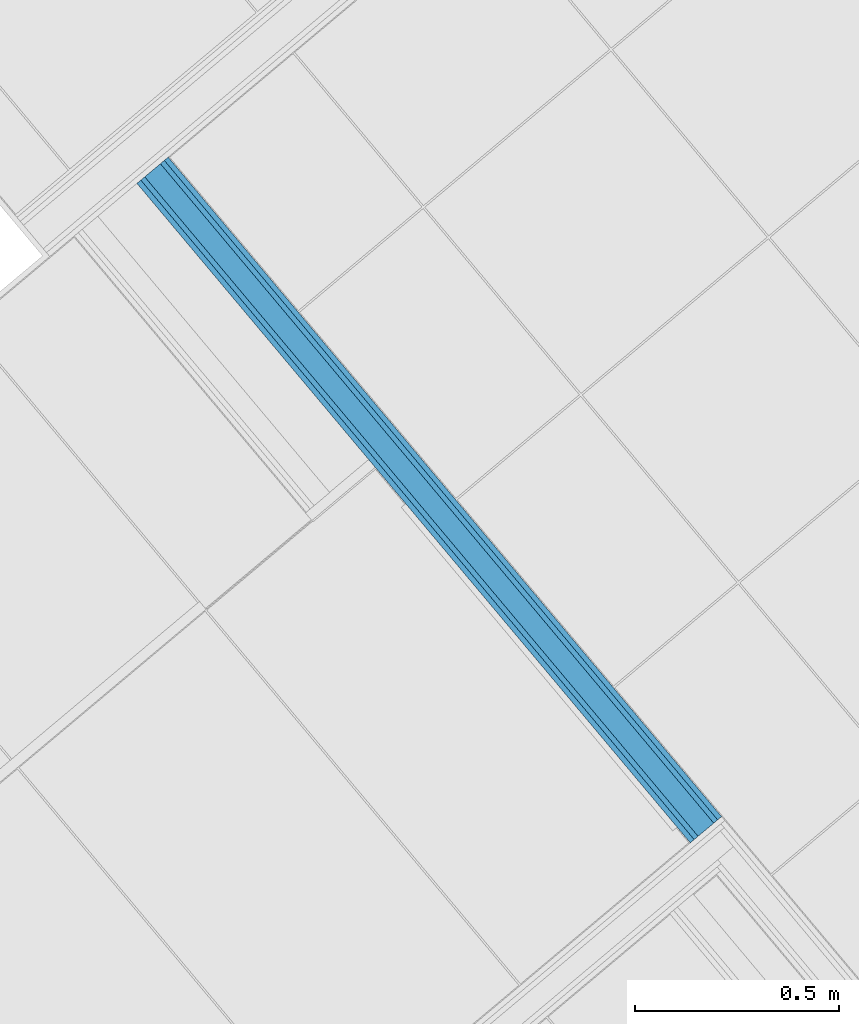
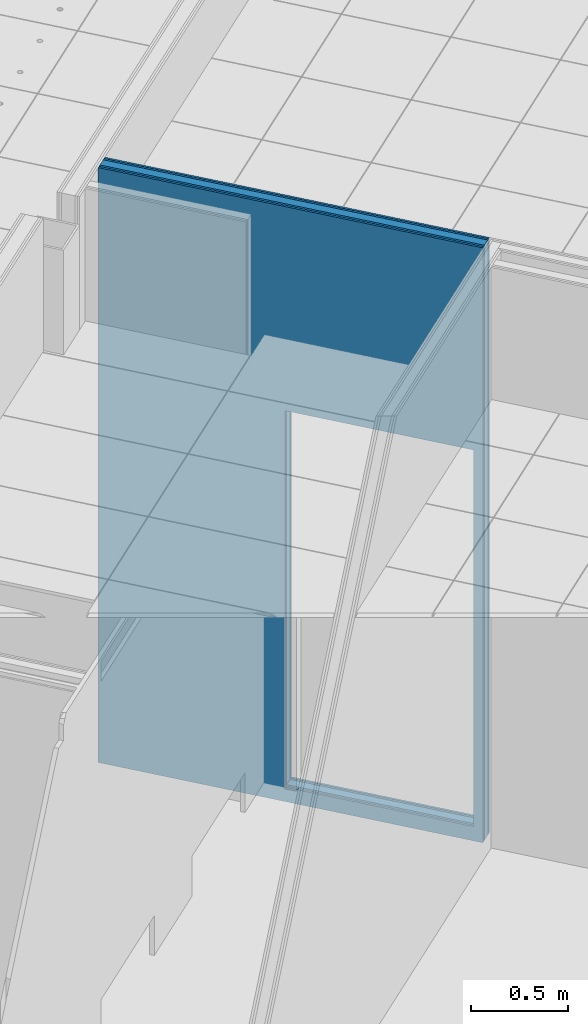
# One storey, part 22 of 338: 5 building element parts, 1 opening, 1 element without a shape of its own.
"""IFC2X3 building model written with IfcOpenShell, lengths in millimetres."""

import ifcopenshell
import ifcopenshell.guid

model = None  # the IFC model being written
_history = None  # IfcOwnerHistory: only IFC2X3 demands one
_inside = {}  # id of a spatial element -> (the spatial element, [elements in it])
_under = {}  # id of a project, library or spatial element -> (it, [spatial elements below it])
_declared = {}  # id of a project -> (the project, [libraries it declares])
_typed = {}  # id of a type object -> (the type object, [elements of that type])
_made_of = {}  # id of a material, layer set ... -> (it, [elements and type objects made of it])


def new_model(schema):
    """Start an empty IFC model of exactly this schema.

    Asked for "IFC4X3", IfcOpenShell would pick the latest addendum, in which some entities
    have other attributes; the version numbers below select the first issue.
    IFC2X3 requires an IfcOwnerHistory on every rooted entity: one is made here for all.
    """
    global model, _history
    if schema == "IFC4X3":
        model = ifcopenshell.file(schema_version=(4, 3, 0, 0))
    else:
        model = ifcopenshell.file(schema=schema)
    _inside.clear()
    _under.clear()
    _declared.clear()
    _typed.clear()
    _made_of.clear()
    _history = None
    if model.schema == "IFC2X3":
        org = make("IfcOrganization", Name="unknown")
        user = make(
            "IfcPersonAndOrganization",
            ThePerson=make("IfcPerson", FamilyName="unknown"),
            TheOrganization=org,
        )
        app = make(
            "IfcApplication",
            ApplicationDeveloper=org,
            Version="unknown",
            ApplicationFullName="unknown",
            ApplicationIdentifier="unknown",
        )
        _history = make(
            "IfcOwnerHistory",
            OwningUser=user,
            OwningApplication=app,
            ChangeAction="ADDED",
            CreationDate=0,
        )
    return model


def make(cls, **values):
    """One entity of the class cls with the attributes given. An attribute that is None is left unset."""
    return model.create_entity(
        cls, **{name: value for name, value in values.items() if value is not None}
    )


def entity(cls, *values):
    """Any entity or typed value of the class cls, its attributes in the order of the schema. None: left unset."""
    e = model.create_entity(cls)
    for i, value in enumerate(values):
        if value is not None:
            e[i] = value
    return e


def rooted(cls, **values):
    """An entity with a GlobalId (a new one), such as an element, a storey or a relation."""
    return make(cls, GlobalId=ifcopenshell.guid.new(), OwnerHistory=_history, **values)


def si_unit(unit_type, name, prefix=None):
    """IfcSIUnit, for example si_unit("LENGTHUNIT", "METRE", prefix="MILLI")."""
    return make("IfcSIUnit", UnitType=unit_type, Prefix=prefix, Name=name)


def converted_unit(unit_type, name, factor, base, dimensions=None, offset=None):
    """IfcConversionBasedUnit, such as the inch: factor (a typed value) times the base unit."""
    return make(
        "IfcConversionBasedUnit"
        if offset is None
        else "IfcConversionBasedUnitWithOffset",
        ConversionOffset=offset,
        Dimensions=None
        if dimensions is None
        else entity("IfcDimensionalExponents", *dimensions),
        UnitType=unit_type,
        Name=name,
        ConversionFactor=make(
            "IfcMeasureWithUnit", ValueComponent=factor, UnitComponent=base
        ),
    )


def derived_unit(unit_type, elements):
    """IfcDerivedUnit: a product of units, each with its exponent."""
    return make(
        "IfcDerivedUnit",
        Elements=[
            make("IfcDerivedUnitElement", Unit=unit, Exponent=power)
            for unit, power in elements
        ],
        UnitType=unit_type,
    )


def money_unit(currency):
    """IfcMonetaryUnit."""
    return make("IfcMonetaryUnit", Currency=currency)


def assignment(units):
    """IfcUnitAssignment: the units of a project."""
    return None if units is None else make("IfcUnitAssignment", Units=units)


def point(xyz):
    """IfcCartesianPoint."""
    return None if xyz is None else make("IfcCartesianPoint", Coordinates=xyz)


def direction(xyz):
    """IfcDirection."""
    return None if xyz is None else make("IfcDirection", DirectionRatios=xyz)


def frame(location, z_axis=None, x_axis=None):
    """IfcAxis2Placement3D, a coordinate frame: its origin and axes. An axis left out is left unset."""
    return make(
        "IfcAxis2Placement3D",
        Location=point(location),
        Axis=direction(z_axis),
        RefDirection=direction(x_axis),
    )


def origin_with_axes():
    """The frame at (0, 0, 0) with the z axis (0, 0, 1) and the x axis (1, 0, 0) written out."""
    return frame((0.0, 0.0, 0.0), z_axis=(0.0, 0.0, 1.0), x_axis=(1.0, 0.0, 0.0))


def place(relative_to, where):
    """IfcLocalPlacement: puts the frame where relative to a parent placement (None: the world)."""
    return make(
        "IfcLocalPlacement", PlacementRelTo=relative_to, RelativePlacement=where
    )


def context(
    kind, dimensions, precision=None, world=None, true_north=None, identifier=None
):
    """IfcGeometricRepresentationContext, for example the 3D "Model" context."""
    return make(
        "IfcGeometricRepresentationContext",
        ContextIdentifier=identifier,
        ContextType=kind,
        CoordinateSpaceDimension=dimensions,
        Precision=precision,
        WorldCoordinateSystem=world,
        TrueNorth=true_north,
    )


def subcontext(parent, identifier, kind, view, scale=None):
    """IfcGeometricRepresentationSubContext, for example "Body" below "Model"."""
    return make(
        "IfcGeometricRepresentationSubContext",
        ContextIdentifier=identifier,
        ContextType=kind,
        ParentContext=parent,
        TargetScale=scale,
        TargetView=view,
    )


def project(units=None, contexts=None):
    """IfcProject with its units and contexts."""
    return rooted(
        "IfcProject",
        Name="project",
        RepresentationContexts=contexts,
        UnitsInContext=assignment(units),
    )


def spatial(cls, under=None, at=None, **own):
    """A site, building, storey or space (cls), placed at a placement, below another one or the project."""
    s = rooted(cls, ObjectPlacement=at, **own)
    if under is not None:
        _under.setdefault(under.id(), (under, []))[1].append(s)
    return s


def faces_of(points, faces, orient=None, outer=None):
    """IfcFace entities. A face is a list of loops; a loop is a list of indices into points, from 0.

    orient and outer hold one flag for each loop. By default every Orientation is true, the
    first loop of a face is its IfcFaceOuterBound and the others are IfcFaceBound.
    """
    made = []
    for i, loops in enumerate(faces):
        bounds = []
        for j, loop in enumerate(loops):
            is_outer = j == 0 if outer is None else outer[i][j]
            bounds.append(
                make(
                    "IfcFaceOuterBound" if is_outer else "IfcFaceBound",
                    Bound=make("IfcPolyLoop", Polygon=[points[k] for k in loop]),
                    Orientation=True if orient is None else orient[i][j],
                )
            )
        made.append(make("IfcFace", Bounds=bounds))
    return made


def faceted_brep(points, faces, orient=None, outer=None, voids=None):
    """IfcFacetedBrep: a solid bounded by flat faces; with voids (closed shells), ...WithVoids."""
    shared = [point(p) for p in points]
    hull = make("IfcClosedShell", CfsFaces=faces_of(shared, faces, orient, outer))
    if voids is None:
        return make("IfcFacetedBrep", Outer=hull)
    return make(
        "IfcFacetedBrepWithVoids",
        Outer=hull,
        Voids=[
            make(cls, CfsFaces=faces_of(shared, fs, o, b)) for cls, fs, o, b in voids
        ],
    )


def shape(context_of_items, identifier, shape_type, items):
    """IfcShapeRepresentation: the items that make up one representation, for example the "Body"."""
    return make(
        "IfcShapeRepresentation",
        ContextOfItems=context_of_items,
        RepresentationIdentifier=identifier,
        RepresentationType=shape_type,
        Items=items,
    )


def material(Name=None, Category=None):
    """IfcMaterial."""
    return make("IfcMaterial", Name=Name, Category=Category)


def made_of(thing, what):
    """Note that an element or type object is made of a material, layer set ...; save() writes the relation."""
    if what is not None:
        _made_of.setdefault(what.id(), (what, []))[1].append(thing)
    return thing


def type_object(cls, material=None, **own):
    """A type object (cls), such as IfcWallType, which elements share."""
    return made_of(rooted(cls, **own), material)


def element(
    cls,
    number,
    at=None,
    inside=None,
    cuts=None,
    type_object=None,
    material=None,
    context=None,
    identifier="Body",
    shape_type=None,
    held_by="IfcProductDefinitionShape",
    body=None,
    shapes=None,
    **own,
):
    """One element of the class cls, such as IfcWall. Its Tag is "e" and its number.

    at: its placement. inside: the storey or other place that contains it. cuts: it is an
    opening in that element (IfcRelVoidsElement). A single representation is given by context,
    identifier, shape_type and body (its items); several are given by shapes. held_by: the class
    of the entity that holds the representations. save() writes the other relations.
    """
    e = rooted(cls, Tag="e%d" % number, ObjectPlacement=at, **own)
    if body is not None:
        shapes = [shape(context, identifier, shape_type, body)]
    if shapes is not None:
        e.Representation = make(held_by, Representations=shapes)
    if inside is not None:
        _inside.setdefault(inside.id(), (inside, []))[1].append(e)
    if cuts is not None:
        rooted(
            "IfcRelVoidsElement", RelatingBuildingElement=cuts, RelatedOpeningElement=e
        )
    if type_object is not None:
        _typed.setdefault(type_object.id(), (type_object, []))[1].append(e)
    return made_of(e, material)


def aggregate(whole, parts):
    """IfcRelAggregates: a whole, such as a stair, and the parts it consists of."""
    return rooted("IfcRelAggregates", RelatingObject=whole, RelatedObjects=parts)


def save(model, path):
    """Write the relations noted so far, then the file.

    IfcRelAggregates (storeys below a building ...), IfcRelContainedInSpatialStructure (elements
    in a storey), IfcRelDefinesByType, IfcRelAssociatesMaterial and IfcRelDeclares: one each for
    every whole, place, type object, material and project.
    """
    for whole, parts in _under.values():
        aggregate(whole, parts)
    for where, things in _inside.values():
        rooted(
            "IfcRelContainedInSpatialStructure",
            RelatedElements=things,
            RelatingStructure=where,
        )
    for kind, things in _typed.values():
        rooted("IfcRelDefinesByType", RelatedObjects=things, RelatingType=kind)
    for what, things in _made_of.values():
        rooted("IfcRelAssociatesMaterial", RelatedObjects=things, RelatingMaterial=what)
    for by, libraries in _declared.values():
        rooted("IfcRelDeclares", RelatingContext=by, RelatedDefinitions=libraries)
    model.write(path)


model = new_model("IFC2X3")

# Units and contexts
model_context = context("Model", 3, precision=0.01, world=origin_with_axes(), true_north=direction((0.0, 1.0)))
plan_context = context("Plan", 3, precision=0.01, world=origin_with_axes(), true_north=direction((0.0, 1.0)))
body_context = subcontext(model_context, "Body", "Model", "MODEL_VIEW")
ifc_project = project(units=[si_unit("LENGTHUNIT", "METRE", prefix="MILLI"), si_unit("AREAUNIT", "SQUARE_METRE"), si_unit("VOLUMEUNIT", "CUBIC_METRE"), converted_unit("PLANEANGLEUNIT", "DEGREE", entity("IfcPlaneAngleMeasure", 0.0174532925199), si_unit("PLANEANGLEUNIT", "RADIAN"), dimensions=[0, 0, 0, 0, 0, 0, 0]), money_unit("EUR"), converted_unit("TIMEUNIT", "Year", entity("IfcTimeMeasure", 31556926.0), si_unit("TIMEUNIT", "SECOND"), dimensions=[0, 0, 1, 0, 0, 0, 0]), si_unit("MASSUNIT", "GRAM", prefix="KILO"), si_unit("THERMODYNAMICTEMPERATUREUNIT", "DEGREE_CELSIUS"), si_unit("LUMINOUSINTENSITYUNIT", "LUMEN"), si_unit("ENERGYUNIT", "JOULE", prefix="MEGA"), derived_unit("THERMALCONDUCTANCEUNIT", [(si_unit("POWERUNIT", "WATT"), 1), (si_unit("LENGTHUNIT", "METRE"), -1), (si_unit("THERMODYNAMICTEMPERATUREUNIT", "KELVIN"), -1)]), derived_unit("SPECIFICHEATCAPACITYUNIT", [(si_unit("ENERGYUNIT", "JOULE"), 1), (si_unit("MASSUNIT", "GRAM", prefix="KILO"), -1), (si_unit("THERMODYNAMICTEMPERATUREUNIT", "KELVIN"), -1)]), derived_unit("MASSDENSITYUNIT", [(si_unit("MASSUNIT", "GRAM", prefix="KILO"), 1), (si_unit("VOLUMEUNIT", "CUBIC_METRE"), -1)])], contexts=[model_context, plan_context])

# Site, building, storey
site_placement = place(None, origin_with_axes())
site = spatial("IfcSite", under=ifc_project, at=site_placement, Name="Fortuinstraat Woensdrecht", CompositionType="ELEMENT")
building_placement = place(site_placement, origin_with_axes())
building = spatial("IfcBuilding", under=site, at=building_placement, Name="IKC Fortuna", CompositionType="ELEMENT")
storey_placement = place(building_placement, origin_with_axes())
storey = spatial("IfcBuildingStorey", under=building, at=storey_placement, Name="00 begane grond", CompositionType="ELEMENT", Elevation=0.0)

# Wall, opening, building element parts
wall_type = type_object("IfcWallType", Name="MS100 2.50.2A 100", PredefinedType="NOTDEFINED")
wall_placement = place(storey_placement, frame((9560.30288367, -4626.17051853, 1360.0), z_axis=(0.0, 0.0, 1.0), x_axis=(-0.642787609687, 0.766044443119, 0.0)))
wall = element("IfcWall", 1, at=wall_placement, inside=storey, type_object=wall_type, Name="22_Wand_Binnenwand")
opening_placement = place(wall_placement, frame((667.0, 0.0, 90.0), z_axis=(0.0, 0.0, 1.0), x_axis=(1.0, 0.0, 0.0)))
element("IfcOpeningElement", 2, at=opening_placement, cuts=wall, Name="32_Deur_h.01d", context=body_context, shape_type="Brep", body=[
    faceted_brep([(517.0, -200.0, 2367.0), (517.0, -200.0, 0.0), (517.0, 100.0, 0.0), (517.0, 100.0, 2367.0), (-517.0, -200.0, 2367.0), (-517.0, -200.0, 0.0), (-517.0, 100.0, 0.0), (-517.0, 100.0, 2367.0)], [[[0, 1, 2, 3]], [[0, 4, 5, 1]], [[1, 5, 6, 2]], [[3, 2, 6, 7]], [[4, 0, 3, 7]], [[5, 4, 7, 6]]]),
])
ifc_material_1 = material(Name="Gipsplaat")
building_element_part_1_placement = place(wall_placement, origin_with_axes())
building_element_part_1 = element("IfcBuildingElementPart", 3, at=building_element_part_1_placement, material=ifc_material_1, Name="Gipsplaat", context=body_context, shape_type="Brep", body=[
    faceted_brep([(100.0, 100.0, 3740.0), (2207.41524101, 100.0, 3740.0), (2207.41524101, 100.0, 0.0), (100.0, 100.0, 0.0), (1184.0, 100.0, 90.0), (1184.0, 100.0, 2457.0), (150.0, 100.0, 2457.0), (150.0, 100.0, 90.0), (100.0, 87.5, 3740.0), (2207.41524101, 87.5, 3740.0), (2207.41524101, 87.5, 0.0), (100.0, 87.5, 0.0), (1184.0, 87.5, 90.0), (1184.0, 87.5, 2457.0), (150.0, 87.5, 2457.0), (150.0, 87.5, 90.0)], [[[0, 1, 2, 3], [4, 5, 6, 7]], [[8, 9, 1, 0]], [[1, 9, 10, 2]], [[3, 2, 10, 11]], [[8, 0, 3, 11]], [[12, 13, 5, 4]], [[13, 14, 6, 5]], [[14, 15, 7, 6]], [[15, 12, 4, 7]], [[11, 10, 9, 8], [12, 15, 14, 13]]]),
])
building_element_part_2_placement = place(wall_placement, origin_with_axes())
building_element_part_2 = element("IfcBuildingElementPart", 4, at=building_element_part_2_placement, material=ifc_material_1, Name="Gipsplaat", context=body_context, shape_type="Brep", body=[
    faceted_brep([(100.0, 87.5, 3740.0), (2207.41524101, 87.5, 3740.0), (2207.41524101, 87.5, 0.0), (100.0, 87.5, 0.0), (1184.0, 87.5, 90.0), (1184.0, 87.5, 2457.0), (150.0, 87.5, 2457.0), (150.0, 87.5, 90.0), (100.0, 75.0, 3740.0), (2207.41524101, 75.0, 3740.0), (2207.41524101, 75.0, 0.0), (100.0, 75.0, 0.0), (1184.0, 75.0, 90.0), (1184.0, 75.0, 2457.0), (150.0, 75.0, 2457.0), (150.0, 75.0, 90.0)], [[[0, 1, 2, 3], [4, 5, 6, 7]], [[8, 9, 1, 0]], [[1, 9, 10, 2]], [[3, 2, 10, 11]], [[8, 0, 3, 11]], [[12, 13, 5, 4]], [[13, 14, 6, 5]], [[14, 15, 7, 6]], [[15, 12, 4, 7]], [[11, 10, 9, 8], [12, 15, 14, 13]]]),
])
ifc_material_2 = material(Name="Isolatie - Steenwol LSW")
building_element_part_3_placement = place(wall_placement, origin_with_axes())
building_element_part_3 = element("IfcBuildingElementPart", 5, at=building_element_part_3_placement, material=ifc_material_2, Name="Isolatie - Steenwol LSW", context=body_context, shape_type="Brep", body=[
    faceted_brep([(100.0, 75.0, 3740.0), (2207.41524101, 75.0, 3740.0), (2207.41524101, 75.0, 0.0), (100.0, 75.0, 0.0), (1184.0, 75.0, 90.0), (1184.0, 75.0, 2457.0), (150.0, 75.0, 2457.0), (150.0, 75.0, 90.0), (100.0, 25.0, 3740.0), (2207.41524101, 25.0, 3740.0), (2207.41524101, 25.0, 0.0), (100.0, 25.0, 0.0), (1184.0, 25.0, 90.0), (1184.0, 25.0, 2457.0), (150.0, 25.0, 2457.0), (150.0, 25.0, 90.0)], [[[0, 1, 2, 3], [4, 5, 6, 7]], [[8, 9, 1, 0]], [[1, 9, 10, 2]], [[3, 2, 10, 11]], [[8, 0, 3, 11]], [[12, 13, 5, 4]], [[13, 14, 6, 5]], [[14, 15, 7, 6]], [[15, 12, 4, 7]], [[11, 10, 9, 8], [12, 15, 14, 13]]]),
])
building_element_part_4_placement = place(wall_placement, origin_with_axes())
building_element_part_4 = element("IfcBuildingElementPart", 6, at=building_element_part_4_placement, material=ifc_material_1, Name="Gipsplaat", context=body_context, shape_type="Brep", body=[
    faceted_brep([(100.0, 25.0, 3740.0), (2207.41524101, 25.0, 3740.0), (2207.41524101, 25.0, 0.0), (100.0, 25.0, 0.0), (1184.0, 25.0, 90.0), (1184.0, 25.0, 2457.0), (150.0, 25.0, 2457.0), (150.0, 25.0, 90.0), (100.0, 12.5, 3740.0), (2207.41524101, 12.5, 3740.0), (2207.41524101, 12.5, 0.0), (100.0, 12.5, 0.0), (1184.0, 12.5, 90.0), (1184.0, 12.5, 2457.0), (150.0, 12.5, 2457.0), (150.0, 12.5, 90.0)], [[[0, 1, 2, 3], [4, 5, 6, 7]], [[8, 9, 1, 0]], [[1, 9, 10, 2]], [[3, 2, 10, 11]], [[8, 0, 3, 11]], [[12, 13, 5, 4]], [[13, 14, 6, 5]], [[14, 15, 7, 6]], [[15, 12, 4, 7]], [[11, 10, 9, 8], [12, 15, 14, 13]]]),
])
building_element_part_5_placement = place(wall_placement, origin_with_axes())
building_element_part_5 = element("IfcBuildingElementPart", 7, at=building_element_part_5_placement, material=ifc_material_1, Name="Gipsplaat", context=body_context, shape_type="Brep", body=[
    faceted_brep([(100.0, 12.5, 3740.0), (2207.41524101, 12.5, 3740.0), (2207.41524101, 12.5, 0.0), (100.0, 12.5, 0.0), (1184.0, 12.5, 90.0), (1184.0, 12.5, 2457.0), (150.0, 12.5, 2457.0), (150.0, 12.5, 90.0), (100.0, 0.0, 3740.0), (2207.41524101, 0.0, 3740.0), (2207.41524101, 0.0, 0.0), (100.0, 0.0, 0.0), (1184.0, 0.0, 90.0), (1184.0, 0.0, 2457.0), (150.0, 0.0, 2457.0), (150.0, 0.0, 90.0)], [[[0, 1, 2, 3], [4, 5, 6, 7]], [[8, 9, 1, 0]], [[1, 9, 10, 2]], [[3, 2, 10, 11]], [[8, 0, 3, 11]], [[12, 13, 5, 4]], [[13, 14, 6, 5]], [[14, 15, 7, 6]], [[15, 12, 4, 7]], [[11, 10, 9, 8], [12, 15, 14, 13]]]),
])
aggregate(wall, [building_element_part_1, building_element_part_2, building_element_part_3, building_element_part_4, building_element_part_5])

save(model, "model.ifc")
